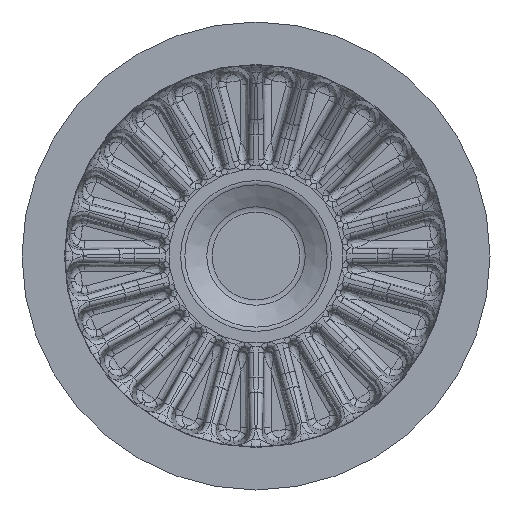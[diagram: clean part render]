
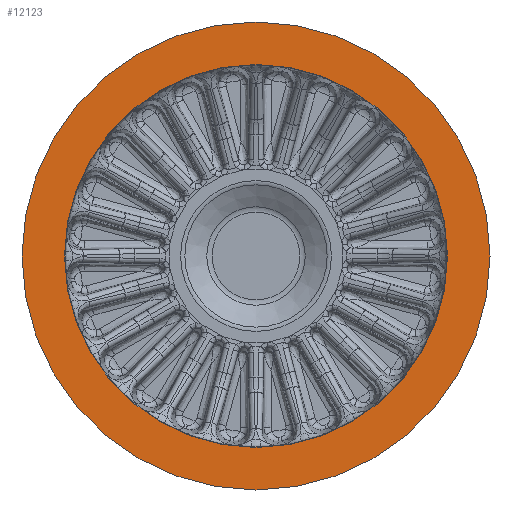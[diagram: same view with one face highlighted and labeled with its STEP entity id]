
A CAD part, left-side view. The second image highlights one B-rep face of the part: STEP entity #12123.
In plain terms, the highlighted planar face has unit normal (-1, 0, 0).
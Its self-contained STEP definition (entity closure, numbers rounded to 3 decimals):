
#1274=PLANE('',#13064);
#1376=CIRCLE('',#13063,184.1);
#1377=CIRCLE('',#13065,225.);
#2283=ORIENTED_EDGE('',*,*,#6220,.T.);
#2284=ORIENTED_EDGE('',*,*,#6219,.F.);
#6219=EDGE_CURVE('',#8175,#8175,#1376,.T.);
#6220=EDGE_CURVE('',#8176,#8176,#1377,.T.);
#8175=VERTEX_POINT('',#19443);
#8176=VERTEX_POINT('',#19446);
#9798=EDGE_LOOP('',(#2283));
#9799=EDGE_LOOP('',(#2284));
#10685=FACE_BOUND('',#9798,.T.);
#10686=FACE_BOUND('',#9799,.T.);
#12123=ADVANCED_FACE('',(#10685,#10686),#1274,.T.);
#13063=AXIS2_PLACEMENT_3D('',#19442,#14245,#14246);
#13064=AXIS2_PLACEMENT_3D('',#19444,#14247,#14248);
#13065=AXIS2_PLACEMENT_3D('',#19445,#14249,#14250);
#14245=DIRECTION('',(-1.,0.,0.));
#14246=DIRECTION('',(0.,0.,1.));
#14247=DIRECTION('',(-1.,0.,0.));
#14248=DIRECTION('',(0.,0.,1.));
#14249=DIRECTION('',(-1.,0.,0.));
#14250=DIRECTION('',(0.,0.,1.));
#19442=CARTESIAN_POINT('',(0.,0.,0.));
#19443=CARTESIAN_POINT('',(0.,0.,184.1));
#19444=CARTESIAN_POINT('',(0.,0.,225.));
#19445=CARTESIAN_POINT('',(0.,0.,0.));
#19446=CARTESIAN_POINT('',(0.,0.,225.));
